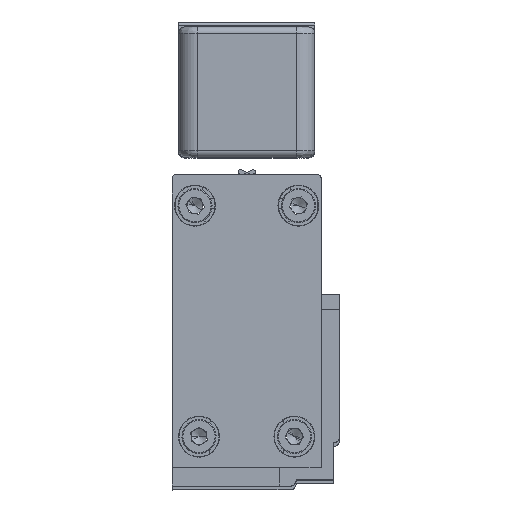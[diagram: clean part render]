
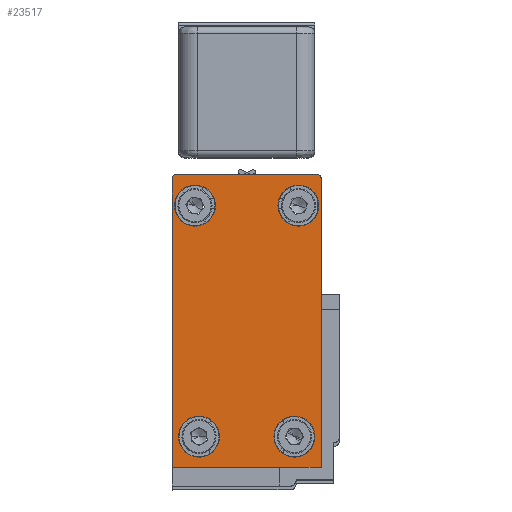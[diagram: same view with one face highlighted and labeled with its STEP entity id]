
A CAD part, top view. The second image highlights one B-rep face of the part: STEP entity #23517.
In plain terms, the highlighted planar face has unit normal (0, 0, 1).
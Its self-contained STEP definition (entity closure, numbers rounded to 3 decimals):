
#402 = CARTESIAN_POINT ( 'NONE',  ( -17.514, 25.871, 3185. ) ) ;
#1546 = VERTEX_POINT ( 'NONE', #17004 ) ;
#1665 = FACE_BOUND ( 'NONE', #16086, .T. ) ;
#1772 = PLANE ( 'NONE',  #17329 ) ;
#1874 = CIRCLE ( 'NONE', #18427, 3.302 ) ;
#2338 = CARTESIAN_POINT ( 'NONE',  ( 5.485, 26.371, 3185. ) ) ;
#2482 = ORIENTED_EDGE ( 'NONE', *, *, #8451, .T. ) ;
#2532 = EDGE_CURVE ( 'NONE', #1546, #10936, #16679, .T. ) ;
#2708 = ORIENTED_EDGE ( 'NONE', *, *, #26690, .T. ) ;
#3043 = EDGE_LOOP ( 'NONE', ( #25676, #10045 ) ) ;
#3241 = DIRECTION ( 'NONE',  ( 0., 1., 0. ) ) ;
#3606 = VECTOR ( 'NONE', #13841, 1000. ) ;
#4174 = LINE ( 'NONE', #22354, #18111 ) ;
#4198 = VERTEX_POINT ( 'NONE', #27981 ) ;
#4530 = CIRCLE ( 'NONE', #22953, 3.302 ) ;
#5053 = CARTESIAN_POINT ( 'NONE',  ( -17.667, 21.401, 3185. ) ) ;
#5162 = ORIENTED_EDGE ( 'NONE', *, *, #27950, .T. ) ;
#5683 = CIRCLE ( 'NONE', #18505, 0.5 ) ;
#5734 = CARTESIAN_POINT ( 'NONE',  ( -13.714, -15.887, 3185. ) ) ;
#6396 = LINE ( 'NONE', #11736, #34973 ) ;
#6862 = CARTESIAN_POINT ( 'NONE',  ( 5.984, 7.11, 3185. ) ) ;
#7689 = CARTESIAN_POINT ( 'NONE',  ( 5.984, 25.871, 3185. ) ) ;
#7984 = EDGE_CURVE ( 'NONE', #4198, #26536, #1874, .T. ) ;
#8303 = EDGE_CURVE ( 'NONE', #22201, #29335, #31905, .T. ) ;
#8450 = VERTEX_POINT ( 'NONE', #14191 ) ;
#8451 = EDGE_CURVE ( 'NONE', #9197, #15703, #11075, .T. ) ;
#8539 = DIRECTION ( 'NONE',  ( -1., 0., 0. ) ) ;
#8702 = CIRCLE ( 'NONE', #15251, 3.302 ) ;
#9080 = DIRECTION ( 'NONE',  ( 0., 0., -1. ) ) ;
#9098 = VECTOR ( 'NONE', #9703, 1000. ) ;
#9188 = FACE_BOUND ( 'NONE', #32571, .T. ) ;
#9197 = VERTEX_POINT ( 'NONE', #2338 ) ;
#9703 = DIRECTION ( 'NONE',  ( 0., 1., 0. ) ) ;
#10045 = ORIENTED_EDGE ( 'NONE', *, *, #7984, .T. ) ;
#10312 = EDGE_CURVE ( 'NONE', #29164, #30856, #8702, .T. ) ;
#10659 = VECTOR ( 'NONE', #16210, 1000. ) ;
#10936 = VERTEX_POINT ( 'NONE', #35370 ) ;
#11075 = LINE ( 'NONE', #14156, #3606 ) ;
#11419 = CARTESIAN_POINT ( 'NONE',  ( -18.014, -20.888, 3185. ) ) ;
#11452 = ORIENTED_EDGE ( 'NONE', *, *, #28545, .T. ) ;
#11694 = CIRCLE ( 'NONE', #32019, 0.5 ) ;
#11736 = CARTESIAN_POINT ( 'NONE',  ( -18.014, -20.888, 3185. ) ) ;
#11827 = CIRCLE ( 'NONE', #18736, 3.302 ) ;
#11993 = CIRCLE ( 'NONE', #19879, 3.302 ) ;
#12313 = DIRECTION ( 'NONE',  ( 0., 0., 1. ) ) ;
#12652 = ORIENTED_EDGE ( 'NONE', *, *, #33614, .T. ) ;
#13335 = DIRECTION ( 'NONE',  ( -1., 0., 0. ) ) ;
#13375 = DIRECTION ( 'NONE',  ( 0., 0., -1. ) ) ;
#13424 = CARTESIAN_POINT ( 'NONE',  ( -14.365, 21.401, 3185. ) ) ;
#13841 = DIRECTION ( 'NONE',  ( -1., 0., 0. ) ) ;
#13998 = EDGE_CURVE ( 'NONE', #32991, #23716, #4174, .T. ) ;
#14156 = CARTESIAN_POINT ( 'NONE',  ( 5.485, 26.371, 3185. ) ) ;
#14191 = CARTESIAN_POINT ( 'NONE',  ( -10.412, -15.887, 3185. ) ) ;
#14626 = DIRECTION ( 'NONE',  ( 0., 0., -1. ) ) ;
#15251 = AXIS2_PLACEMENT_3D ( 'NONE', #13424, #13375, #13335 ) ;
#15445 = ORIENTED_EDGE ( 'NONE', *, *, #10312, .T. ) ;
#15463 = ORIENTED_EDGE ( 'NONE', *, *, #24338, .F. ) ;
#15684 = CARTESIAN_POINT ( 'NONE',  ( -18.014, 25.871, 3185. ) ) ;
#15703 = VERTEX_POINT ( 'NONE', #15905 ) ;
#15905 = CARTESIAN_POINT ( 'NONE',  ( -17.514, 26.371, 3185. ) ) ;
#15913 = DIRECTION ( 'NONE',  ( 0., 0., 1. ) ) ;
#16086 = EDGE_LOOP ( 'NONE', ( #12652, #11452 ) ) ;
#16097 = ORIENTED_EDGE ( 'NONE', *, *, #8303, .T. ) ;
#16141 = DIRECTION ( 'NONE',  ( 0., 0., -1. ) ) ;
#16210 = DIRECTION ( 'NONE',  ( 0., -1., 0. ) ) ;
#16460 = ORIENTED_EDGE ( 'NONE', *, *, #21566, .T. ) ;
#16679 = CIRCLE ( 'NONE', #25175, 3.302 ) ;
#16843 = VERTEX_POINT ( 'NONE', #20495 ) ;
#17004 = CARTESIAN_POINT ( 'NONE',  ( -0.967, 21.401, 3185. ) ) ;
#17181 = CARTESIAN_POINT ( 'NONE',  ( -1.626, -15.887, 3185. ) ) ;
#17249 = CARTESIAN_POINT ( 'NONE',  ( 5.984, 7.11, 3185. ) ) ;
#17329 = AXIS2_PLACEMENT_3D ( 'NONE', #32561, #15913, #35273 ) ;
#17558 = AXIS2_PLACEMENT_3D ( 'NONE', #28159, #28128, #28018 ) ;
#17759 = EDGE_CURVE ( 'NONE', #26536, #4198, #30292, .T. ) ;
#17893 = DIRECTION ( 'NONE',  ( -1., 0., 0. ) ) ;
#18111 = VECTOR ( 'NONE', #22477, 1000. ) ;
#18133 = ORIENTED_EDGE ( 'NONE', *, *, #23100, .T. ) ;
#18427 = AXIS2_PLACEMENT_3D ( 'NONE', #21507, #21458, #21430 ) ;
#18493 = DIRECTION ( 'NONE',  ( 0., 0., -1. ) ) ;
#18505 = AXIS2_PLACEMENT_3D ( 'NONE', #29034, #12313, #31726 ) ;
#18736 = AXIS2_PLACEMENT_3D ( 'NONE', #25771, #9080, #28588 ) ;
#18880 = CARTESIAN_POINT ( 'NONE',  ( 5.984, -20.888, 3185. ) ) ;
#19200 = CARTESIAN_POINT ( 'NONE',  ( 2.335, 21.401, 3185. ) ) ;
#19879 = AXIS2_PLACEMENT_3D ( 'NONE', #31297, #14626, #34040 ) ;
#19923 = DIRECTION ( 'NONE',  ( 0., 0., -1. ) ) ;
#20112 = DIRECTION ( 'NONE',  ( 1., 0., 0. ) ) ;
#20495 = CARTESIAN_POINT ( 'NONE',  ( -17.017, -15.887, 3185. ) ) ;
#21430 = DIRECTION ( 'NONE',  ( -1., 0., 0. ) ) ;
#21458 = DIRECTION ( 'NONE',  ( 0., 0., -1. ) ) ;
#21507 = CARTESIAN_POINT ( 'NONE',  ( 1.676, -15.887, 3185. ) ) ;
#21566 = EDGE_CURVE ( 'NONE', #10936, #1546, #11993, .T. ) ;
#22201 = VERTEX_POINT ( 'NONE', #25215 ) ;
#22354 = CARTESIAN_POINT ( 'NONE',  ( 5.984, -20.888, 3185. ) ) ;
#22477 = DIRECTION ( 'NONE',  ( 0., 1., 0. ) ) ;
#22953 = AXIS2_PLACEMENT_3D ( 'NONE', #5734, #25230, #8539 ) ;
#23100 = EDGE_CURVE ( 'NONE', #30856, #29164, #11827, .T. ) ;
#23517 = ADVANCED_FACE ( 'NONE', ( #9188, #31335, #23995, #1665, #30509 ), #1772, .T. ) ;
#23716 = VERTEX_POINT ( 'NONE', #17249 ) ;
#23894 = LINE ( 'NONE', #6862, #9098 ) ;
#23995 = FACE_BOUND ( 'NONE', #3043, .T. ) ;
#24338 = EDGE_CURVE ( 'NONE', #22201, #15703, #11694, .T. ) ;
#25175 = AXIS2_PLACEMENT_3D ( 'NONE', #19200, #18493, #17893 ) ;
#25215 = CARTESIAN_POINT ( 'NONE',  ( -18.014, 25.871, 3185. ) ) ;
#25230 = DIRECTION ( 'NONE',  ( 0., 0., -1. ) ) ;
#25676 = ORIENTED_EDGE ( 'NONE', *, *, #17759, .T. ) ;
#25771 = CARTESIAN_POINT ( 'NONE',  ( -14.365, 21.401, 3185. ) ) ;
#26190 = EDGE_LOOP ( 'NONE', ( #30278, #16460 ) ) ;
#26536 = VERTEX_POINT ( 'NONE', #17181 ) ;
#26690 = EDGE_CURVE ( 'NONE', #23716, #31982, #23894, .T. ) ;
#27950 = EDGE_CURVE ( 'NONE', #29335, #32991, #6396, .T. ) ;
#27981 = CARTESIAN_POINT ( 'NONE',  ( 4.978, -15.887, 3185. ) ) ;
#28018 = DIRECTION ( 'NONE',  ( -1., 0., 0. ) ) ;
#28128 = DIRECTION ( 'NONE',  ( 0., 0., -1. ) ) ;
#28159 = CARTESIAN_POINT ( 'NONE',  ( 1.676, -15.887, 3185. ) ) ;
#28351 = ORIENTED_EDGE ( 'NONE', *, *, #13998, .T. ) ;
#28545 = EDGE_CURVE ( 'NONE', #8450, #16843, #4530, .T. ) ;
#28588 = DIRECTION ( 'NONE',  ( -1., 0., 0. ) ) ;
#28830 = EDGE_LOOP ( 'NONE', ( #28351, #2708, #32100, #2482, #15463, #16097, #5162 ) ) ;
#29034 = CARTESIAN_POINT ( 'NONE',  ( 5.485, 25.871, 3185. ) ) ;
#29140 = CIRCLE ( 'NONE', #29716, 3.302 ) ;
#29164 = VERTEX_POINT ( 'NONE', #5053 ) ;
#29335 = VERTEX_POINT ( 'NONE', #11419 ) ;
#29716 = AXIS2_PLACEMENT_3D ( 'NONE', #32777, #16141, #35472 ) ;
#30278 = ORIENTED_EDGE ( 'NONE', *, *, #2532, .T. ) ;
#30292 = CIRCLE ( 'NONE', #17558, 3.302 ) ;
#30509 = FACE_OUTER_BOUND ( 'NONE', #28830, .T. ) ;
#30561 = EDGE_CURVE ( 'NONE', #31982, #9197, #5683, .T. ) ;
#30856 = VERTEX_POINT ( 'NONE', #34285 ) ;
#31297 = CARTESIAN_POINT ( 'NONE',  ( 2.335, 21.401, 3185. ) ) ;
#31335 = FACE_BOUND ( 'NONE', #26190, .T. ) ;
#31726 = DIRECTION ( 'NONE',  ( 0., 1., 0. ) ) ;
#31905 = LINE ( 'NONE', #15684, #10659 ) ;
#31982 = VERTEX_POINT ( 'NONE', #7689 ) ;
#32019 = AXIS2_PLACEMENT_3D ( 'NONE', #402, #19923, #3241 ) ;
#32100 = ORIENTED_EDGE ( 'NONE', *, *, #30561, .T. ) ;
#32561 = CARTESIAN_POINT ( 'NONE',  ( -18.014, -20.888, 3185. ) ) ;
#32571 = EDGE_LOOP ( 'NONE', ( #15445, #18133 ) ) ;
#32777 = CARTESIAN_POINT ( 'NONE',  ( -13.714, -15.887, 3185. ) ) ;
#32991 = VERTEX_POINT ( 'NONE', #18880 ) ;
#33614 = EDGE_CURVE ( 'NONE', #16843, #8450, #29140, .T. ) ;
#34040 = DIRECTION ( 'NONE',  ( -1., 0., 0. ) ) ;
#34285 = CARTESIAN_POINT ( 'NONE',  ( -11.063, 21.401, 3185. ) ) ;
#34973 = VECTOR ( 'NONE', #20112, 1000. ) ;
#35273 = DIRECTION ( 'NONE',  ( -1., 0., 0. ) ) ;
#35370 = CARTESIAN_POINT ( 'NONE',  ( 5.637, 21.401, 3185. ) ) ;
#35472 = DIRECTION ( 'NONE',  ( -1., 0., 0. ) ) ;
